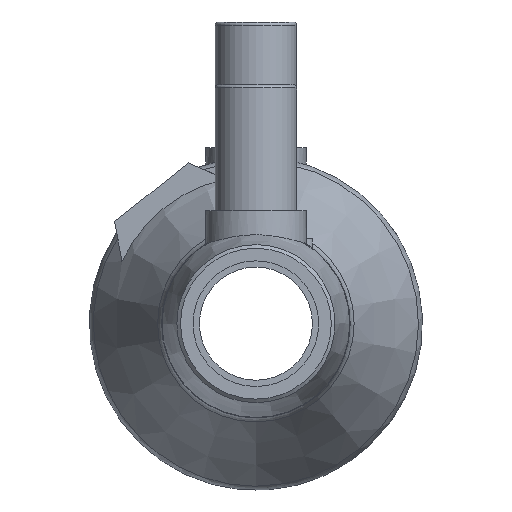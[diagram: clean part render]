
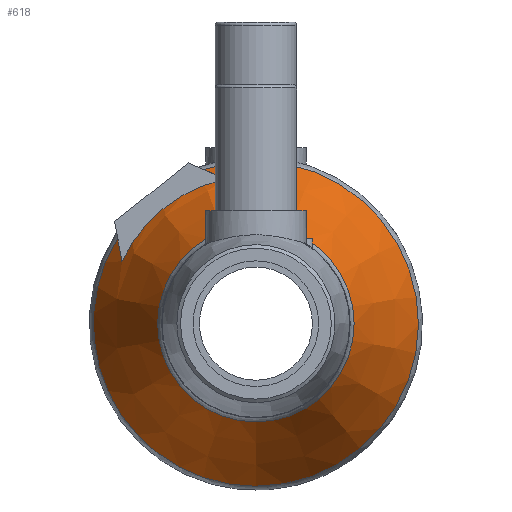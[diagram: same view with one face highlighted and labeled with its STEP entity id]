
A CAD part, left-side view. The second image highlights one B-rep face of the part: STEP entity #618.
In plain terms, the highlighted conical face has half-angle 26.565 degrees and reference radius 26.5 mm.
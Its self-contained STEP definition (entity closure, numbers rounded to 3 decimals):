
#43=CONICAL_SURFACE('',#701,26.5,0.464);
#103=CIRCLE('',#702,25.867);
#104=CIRCLE('',#703,23.5);
#105=CIRCLE('',#704,15.633);
#173=ORIENTED_EDGE('',*,*,#306,.T.);
#174=ORIENTED_EDGE('',*,*,#307,.T.);
#175=ORIENTED_EDGE('',*,*,#308,.T.);
#176=ORIENTED_EDGE('',*,*,#309,.T.);
#177=ORIENTED_EDGE('',*,*,#310,.T.);
#306=EDGE_CURVE('',#375,#376,#103,.T.);
#307=EDGE_CURVE('',#376,#377,#416,.T.);
#308=EDGE_CURVE('',#377,#378,#104,.T.);
#309=EDGE_CURVE('',#378,#375,#417,.F.);
#310=EDGE_CURVE('',#379,#379,#105,.T.);
#375=VERTEX_POINT('',#1098);
#376=VERTEX_POINT('',#1099);
#377=VERTEX_POINT('',#1104);
#378=VERTEX_POINT('',#1106);
#379=VERTEX_POINT('',#1112);
#416=B_SPLINE_CURVE_WITH_KNOTS('',3,(#1100,#1101,#1102,#1103),
 .UNSPECIFIED.,.F.,.F.,(4,4),(0.036,0.042),
 .UNSPECIFIED.);
#417=B_SPLINE_CURVE_WITH_KNOTS('',3,(#1107,#1108,#1109,#1110),
 .UNSPECIFIED.,.F.,.F.,(4,4),(0.027,0.033),
 .UNSPECIFIED.);
#452=EDGE_LOOP('',(#173,#174,#175,#176));
#453=EDGE_LOOP('',(#177));
#538=FACE_BOUND('',#452,.T.);
#539=FACE_BOUND('',#453,.T.);
#618=ADVANCED_FACE('',(#538,#539),#43,.T.);
#701=AXIS2_PLACEMENT_3D('',#1096,#834,#835);
#702=AXIS2_PLACEMENT_3D('',#1097,#836,#837);
#703=AXIS2_PLACEMENT_3D('',#1105,#838,#839);
#704=AXIS2_PLACEMENT_3D('',#1111,#840,#841);
#834=DIRECTION('',(1.,0.,0.));
#835=DIRECTION('',(0.,0.,-1.));
#836=DIRECTION('',(-1.,0.,0.));
#837=DIRECTION('',(0.,0.,1.));
#838=DIRECTION('',(-1.,0.,0.));
#839=DIRECTION('',(0.,0.,1.));
#840=DIRECTION('',(1.,0.,0.));
#841=DIRECTION('',(0.,0.,-1.));
#1096=CARTESIAN_POINT('',(8.,0.,0.));
#1097=CARTESIAN_POINT('',(6.733,0.,0.));
#1098=CARTESIAN_POINT('',(6.733,21.994,13.614));
#1099=CARTESIAN_POINT('',(6.733,8.284,24.504));
#1100=CARTESIAN_POINT('',(6.733,8.284,24.504));
#1101=CARTESIAN_POINT('',(5.112,7.177,24.022));
#1102=CARTESIAN_POINT('',(3.525,6.035,23.525));
#1103=CARTESIAN_POINT('',(2.,4.828,22.999));
#1104=CARTESIAN_POINT('',(2.,4.828,22.999));
#1105=CARTESIAN_POINT('',(2.,0.,0.));
#1106=CARTESIAN_POINT('',(2.,21.31,9.907));
#1107=CARTESIAN_POINT('',(6.733,21.994,13.614));
#1108=CARTESIAN_POINT('',(5.119,21.776,12.432));
#1109=CARTESIAN_POINT('',(3.533,21.55,11.208));
#1110=CARTESIAN_POINT('',(2.,21.31,9.907));
#1111=CARTESIAN_POINT('',(-13.733,0.,0.));
#1112=CARTESIAN_POINT('',(-13.733,0.,-15.633));
